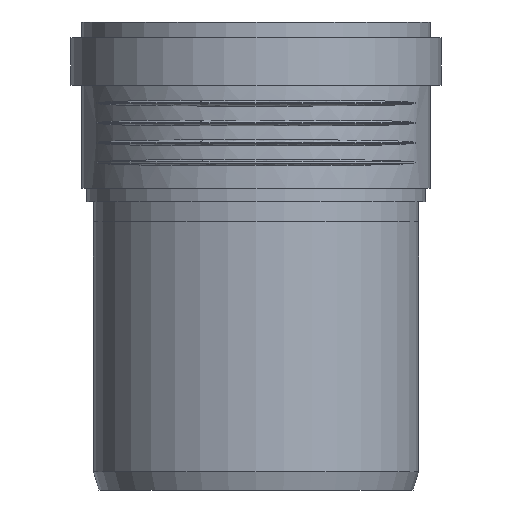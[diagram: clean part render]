
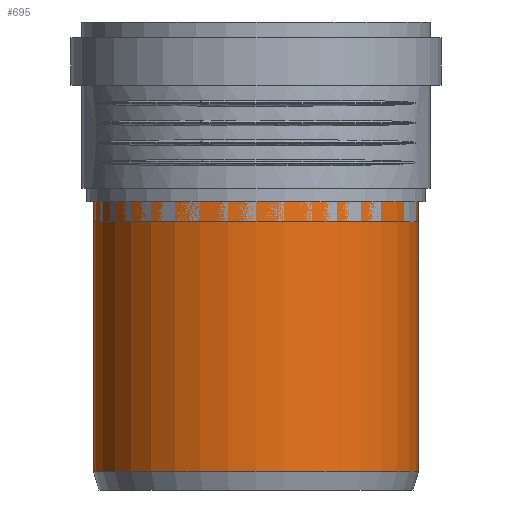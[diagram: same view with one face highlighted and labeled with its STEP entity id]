
A CAD part, front view. The second image highlights one B-rep face of the part: STEP entity #695.
In plain terms, the highlighted cylindrical face has radius 80.125 mm (diameter 160.25 mm), a full revolution.
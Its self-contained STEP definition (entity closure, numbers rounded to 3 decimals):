
#94=CYLINDRICAL_SURFACE($,#750,80.125);
#118=FACE_BOUND($,#198,.T.);
#153=FACE_OUTER_BOUND($,#197,.T.);
#197=EDGE_LOOP($,(#472));
#198=EDGE_LOOP($,(#473));
#272=CIRCLE($,#747,80.125);
#274=CIRCLE($,#751,80.125);
#311=VERTEX_POINT($,#1021);
#313=VERTEX_POINT($,#1027);
#382=EDGE_CURVE($,#311,#311,#272,.T.);
#384=EDGE_CURVE($,#313,#313,#274,.T.);
#472=ORIENTED_EDGE($,*,*,#384,.T.);
#473=ORIENTED_EDGE($,*,*,#382,.F.);
#695=ADVANCED_FACE($,(#153,#118),#94,.T.);
#747=AXIS2_PLACEMENT_3D($,#1022,#841,#842);
#750=AXIS2_PLACEMENT_3D($,#1026,#847,#848);
#751=AXIS2_PLACEMENT_3D($,#1028,#849,#850);
#841=DIRECTION('center_axis',(0.,0.,-1.));
#842=DIRECTION('ref_axis',(-1.,0.,0.));
#847=DIRECTION('center_axis',(0.,0.,1.));
#848=DIRECTION('ref_axis',(-1.,0.,0.));
#849=DIRECTION('center_axis',(0.,0.,-1.));
#850=DIRECTION('ref_axis',(-1.,0.,0.));
#1021=CARTESIAN_POINT('',(80.125,0.,-62.));
#1022=CARTESIAN_POINT('Origin',(0.,0.,-62.));
#1026=CARTESIAN_POINT('Origin',(0.,0.,0.));
#1027=CARTESIAN_POINT('',(80.125,0.,71.));
#1028=CARTESIAN_POINT('Origin',(0.,0.,71.));
